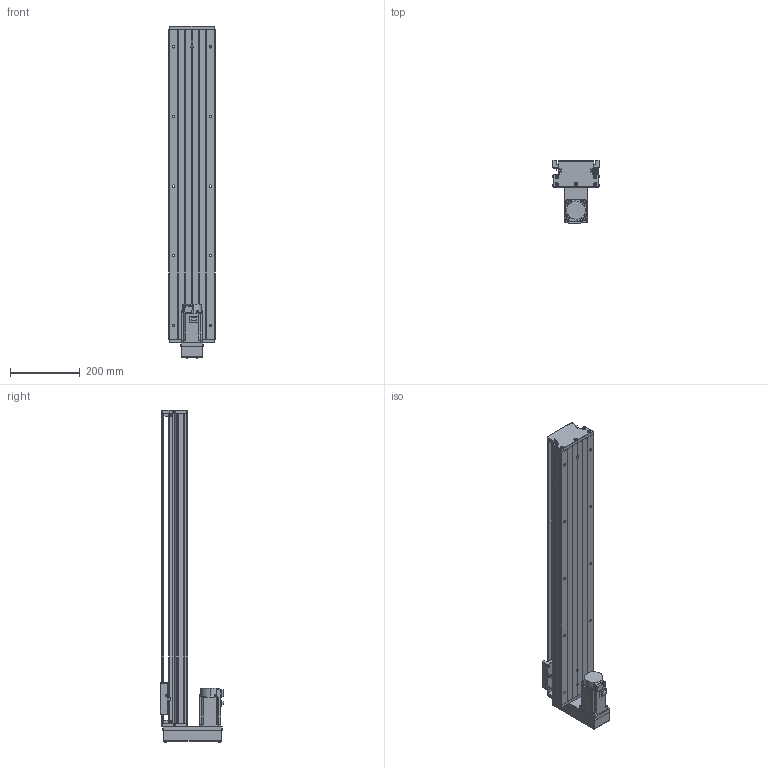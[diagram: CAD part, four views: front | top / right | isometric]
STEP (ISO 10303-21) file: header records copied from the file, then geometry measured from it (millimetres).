
FILE_DESCRIPTION (( 'STEP AP203' ), '1' );
FILE_NAME ('KTH130-750-BM-M40-C4.step', '2023-06-30T04:05:44', ( '微软用户' ), ( '微软中国' ), 'SwSTEP 2.0', 'SolidWorks 2020', '' );
FILE_SCHEMA (( 'CONFIG_CONTROL_DESIGN' ));
Length unit declared in the file: millimetre
Products named in the file (19): KTH130-004; CTHA60-016; HG-KN43J-S100; KTH130-005; GBT 70.1-M3℅5; GBT 70.2-M4¡Á35_M4¡Á35; GB1155-6X6; GBT77-2000 M3×3; GTH14-015-2_CTHA86-015-2; GBT70.1 M5℅16; す晦芛蹟隊 M3℅5; GTH14-033; GBT 70.2-M3¡Á5_M3¡Á6; GBT 70.3-M3℅8; KTH130-750-BM-M40-C4; GTH14-001_750; CTHA60-017; KTH130-002_KTH130-002; EE_SX911P_R
Assembly tree (53 placements, depth 2):
  KTH130-750-BM-M40-C4
    GTH14-001_750
    KTH130-002_KTH130-002
    KTH130-004
    KTH130-005
    GB1155-6X6  x2
    GBT70.1 M5℅16  x10
    GBT 70.2-M3¡Á5_M3¡Á6  x4
    CTHA60-017  x3
    EE_SX911P_R  x3
    CTHA60-016  x2
    GBT 70.1-M3℅5  x6
    GBT77-2000 M3×3  x6
    す晦芛蹟隊 M3℅5  x2
    GBT 70.3-M3℅8  x4
    HG-KN43J-S100
    GBT 70.2-M4¡Á35_M4¡Á35  x4
    GTH14-015-2_CTHA86-015-2
    GTH14-033
Bounding box: 135 x 181.8 x 954.2 mm (x, y, z)
Volume: 5410909.6 mm3; surface area: 874412.7 mm2
Topology: 56 solids, 56 shells, 2223 faces, 5366 edges, 3342 vertices
Faces by surface type: plane 1197, cylinder 612, cone 290, torus 100, sphere 24
Entity records: 40558 total; most frequent: CARTESIAN_POINT 8634, DIRECTION 6039, ORIENTED_EDGE 5932, EDGE_CURVE 2966, AXIS2_PLACEMENT_3D 2078, VERTEX_POINT 1895, VECTOR 1883, LINE 1883
